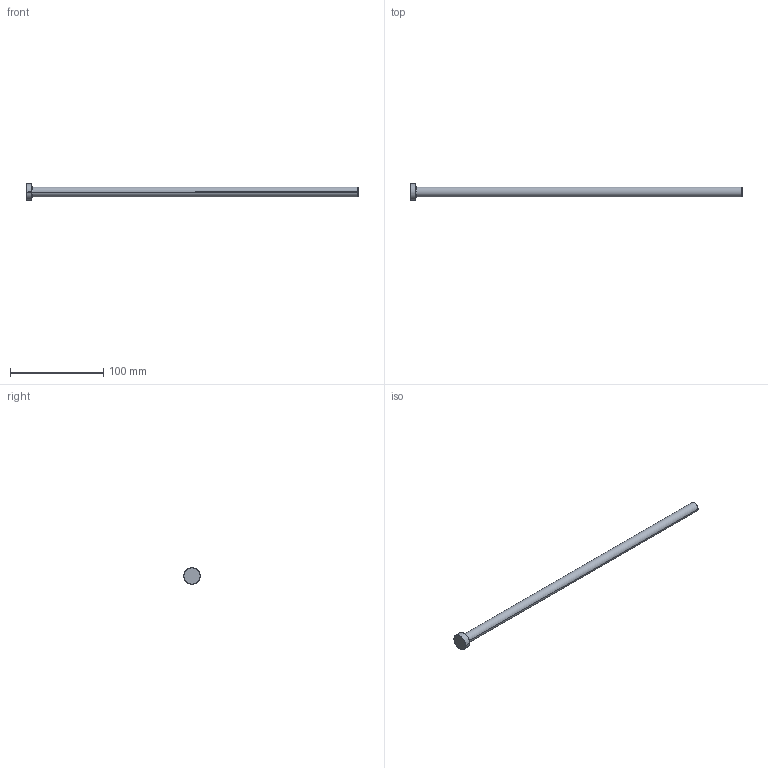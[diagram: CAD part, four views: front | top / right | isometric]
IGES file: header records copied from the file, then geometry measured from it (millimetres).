
Start section: SolidWorks IGES file using analytic representation for surfaces
Global section: file name: C:\Users\Ryan\Documents\PCS\Ejector Pins - Inch\P28-14.igs; native system: SolidWorks 2009; preprocessor: SolidWorks 2009; author: Ryan; date: 140226.082709; units: inch
Bounding box: 355.6 x 17.46 x 17.46 mm (x, y, z)
Surface area: 12560.2 mm2 (no closed solid volume)
Topology: 0 solids, 0 shells, 9 faces, 152 edges, 152 vertices
Faces by surface type: bspline 5, revolution 4
